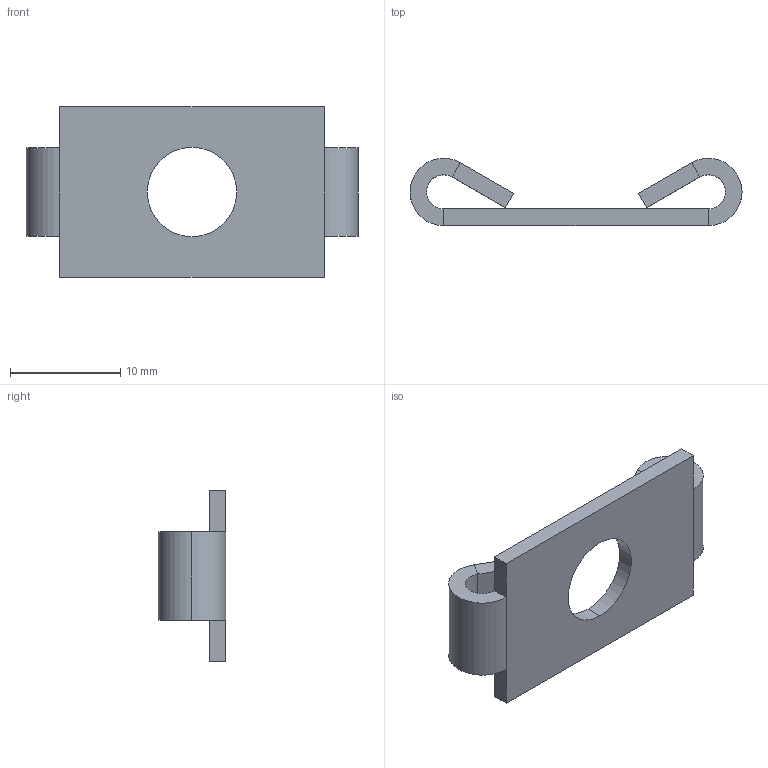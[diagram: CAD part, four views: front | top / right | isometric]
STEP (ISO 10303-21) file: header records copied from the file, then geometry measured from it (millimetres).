
FILE_DESCRIPTION (( 'STEP AP214' ), '1' );
FILE_NAME ('8-10.STEP', '2019-01-18T07:48:06', ( '' ), ( '' ), 'SwSTEP 2.0', 'SolidWorks 2018', '' );
FILE_SCHEMA (( 'AUTOMOTIVE_DESIGN' ));
Length unit declared in the file: millimetre
Products named in the file (1): 8-10
Bounding box: 30.1 x 6.1 x 15.5 mm (x, y, z)
Volume: 816.7 mm3; surface area: 1329.6 mm2
Topology: 1 solids, 1 shells, 32 faces, 74 edges, 44 vertices
Faces by surface type: plane 22, cylinder 10
Entity records: 928 total; most frequent: DIRECTION 160, CARTESIAN_POINT 151, ORIENTED_EDGE 148, EDGE_CURVE 74, VECTOR 54, LINE 54, AXIS2_PLACEMENT_3D 53, VERTEX_POINT 44
